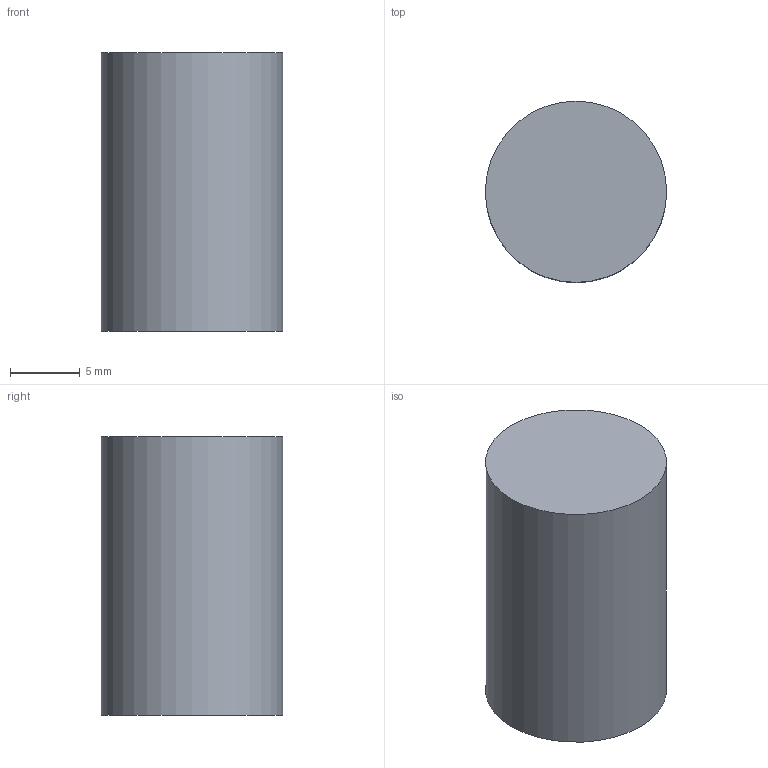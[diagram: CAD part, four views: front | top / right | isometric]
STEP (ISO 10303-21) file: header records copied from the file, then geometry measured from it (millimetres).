
FILE_DESCRIPTION(('STEP AP242 Edition 2','STEP AP242 Edition 2''CAx-IF Rec.Pracs.---Representation and Presentation of Product Manufacturing Information (PMI)---4.0---2014-10-13','STEP AP242 Edition 2''CAx-IF Rec.Pracs.---Representation and Presentation of Product Manufacturing Information (PMI)---4.0---2014-10-13''CAx-IF Rec.Pracs.---3D Tessellated Geometry---0.4---2014-09-14','STEP AP242 Edition 2''CAx-IF Rec.Pracs.---Representation and Presentation of Product Manufacturing Information (PMI)---4.0---2014-10-13''CAx-IF Rec.Pracs.---3D Tessellated Geometry---0.4---2014-09-14''2;1','STEP AP242 Edition 2''CAx-IF Rec.Pracs.---Representation and Presentation of Product Manufacturing Information (PMI)---4.0---2014-10-13''CAx-IF Rec.Pracs.---3D Tessellated Geometry---0.4---2014-09-14''2;1''CAx-IF Rec.Pracs.---User Defined Attributes---1.5---2016-08-15'),'2;1');
FILE_NAME('/vol/tmp/translate-14958899252267850940/3D_PCB_PCB_ESP32-sd-int_2026-03-29nosilk - Part 3.step','2026-03-31T16:57:27',(''),(''),'ST-DEVELOPER v20','ONSHAPE BY PTC INC, 1.212',' ');
FILE_SCHEMA(('AP242_MANAGED_MODEL_BASED_3D_ENGINEERING_MIM_LF { 1 0 10303 442 3 1 4 }'));
Length unit declared in the file: metre
Products named in the file (1): Part 3
Bounding box: 13 x 13 x 20 mm (x, y, z)
Volume: 2425.1 mm3; surface area: 1260.6 mm2
Topology: 1 solids, 1 shells, 6 faces, 9 edges, 6 vertices
Faces by surface type: plane 4, cylinder 2
Full cylindrical faces by diameter (mm): 13 x1
Entity records: 154 total; most frequent: DIRECTION 26, CARTESIAN_POINT 21, ORIENTED_EDGE 16, AXIS2_PLACEMENT_3D 11, EDGE_CURVE 8, EDGE_LOOP 8, FACE_BOUND 8, VERTEX_POINT 6
